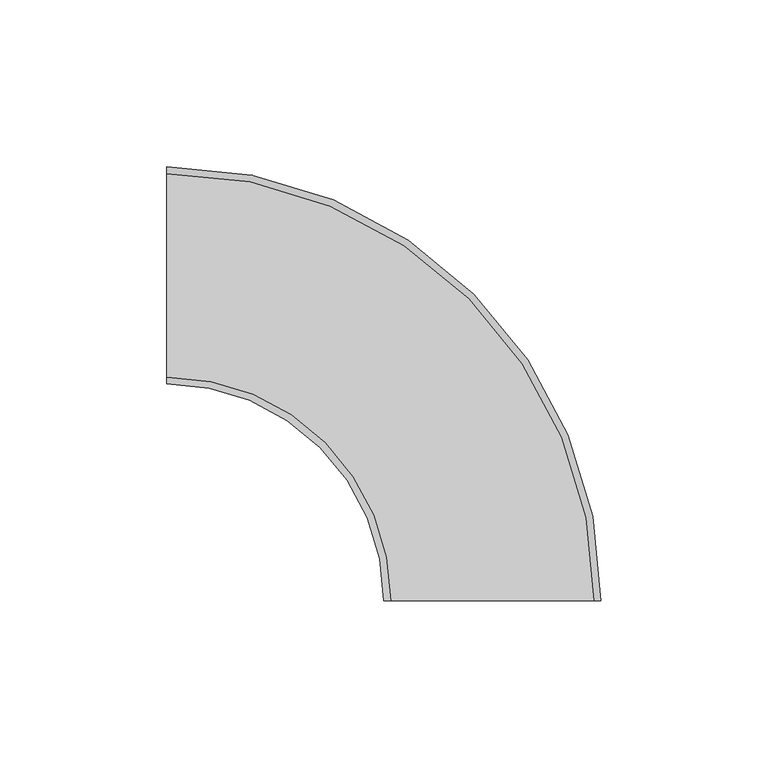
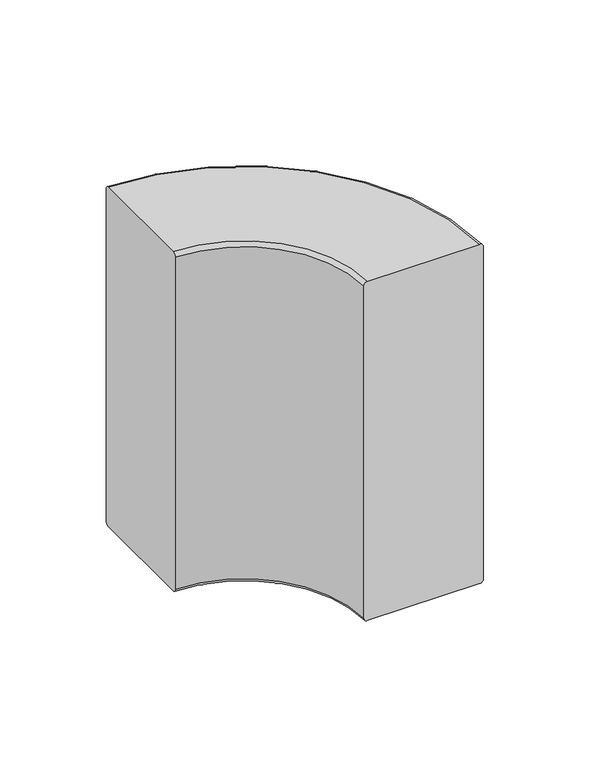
"""IFC4 building model written with IfcOpenShell, lengths in millimetres: duct fitting geometry, Угол внешний переменный от 60° до 120° - для кабель-каналов - белый : Угол внешний переменный от 60° до 120° - для кабель-каналов DLP 65х195/220 - 3 секции."""

from ifc_helpers import new_model, si_unit, point, frame, origin, place, context, project, spatial, polyline, circle_curve, ellipse_curve, trimmed, source, transform, mapped, element, save
from ifc_brep_helpers import plane_surface, cylinder_surface, revolved_surface, advanced_brep


def duct_fitting_70961774(model_context):
    return source(origin(), model_context, "Body", "AdvancedBrep", [
        advanced_brep(
        [(-30.5, 0.0, 97.5), (-32.5, 0.0, 95.5), (-32.5, 0.0, -95.5), (-30.5, 0.0, -97.5), (30.5, 0.0, -97.5), (32.5, 0.0, -95.5), (32.5, 0.0, 95.5), (30.5, 0.0, 97.5), (-97.5, 67.0, 97.5), (-97.5, 128.0, 97.5), (-97.5, 130.0, 95.5), (-97.5, 130.0, -95.5), (-97.5, 128.0, -97.5), (-97.5, 67.0, -97.5), (-97.5, 65.0, -95.5), (-97.5, 65.0, 95.5)],
        [
            (0, 1, circle_curve(frame((-30.5, 0.0, 95.5), z_axis=(0.0, -1.0, 0.0), x_axis=(-1.0, 0.0, 0.0)), 2.0)),
            (1, 2),
            (2, 3, circle_curve(frame((-30.5, 0.0, -95.5), z_axis=(0.0, -1.0, 0.0), x_axis=(-1.0, 0.0, 0.0)), 2.0)),
            (3, 4),
            (4, 5, circle_curve(frame((30.5, 0.0, -95.5), z_axis=(0.0, -1.0, 0.0), x_axis=(-1.0, 0.0, 0.0)), 2.0)),
            (5, 6),
            (6, 7, circle_curve(frame((30.5, 0.0, 95.5), z_axis=(0.0, -1.0, 0.0), x_axis=(-1.0, 0.0, 0.0)), 2.0)),
            (7, 0),
            (8, 9),
            (9, 10, circle_curve(frame((-97.5, 128.0, 95.5), z_axis=(-1.0, 0.0, 0.0), x_axis=(0.0, -1.0, 0.0)), 2.0)),
            (10, 11),
            (11, 12, circle_curve(frame((-97.5, 128.0, -95.5), z_axis=(-1.0, 0.0, 0.0), x_axis=(0.0, -1.0, 0.0)), 2.0)),
            (12, 13),
            (13, 14, circle_curve(frame((-97.5, 67.0, -95.5), z_axis=(-1.0, 0.0, 0.0), x_axis=(0.0, -1.0, 0.0)), 2.0)),
            (14, 15),
            (15, 8, circle_curve(frame((-97.5, 67.0, 95.5), z_axis=(-1.0, 0.0, 0.0), x_axis=(0.0, -1.0, 0.0)), 2.0)),
            (15, 1, circle_curve(frame((-97.5, 0.0, 95.5), z_axis=(0.0, 0.0, -1.0), x_axis=(1.0, 0.0, 0.0)), 65.0)),
            (0, 8, circle_curve(frame((-97.5, 0.0, 97.5), z_axis=(0.0, 0.0, 1.0), x_axis=(1.0, 0.0, 0.0)), 67.0)),
            (14, 2, circle_curve(frame((-97.5, 0.0, -95.5), z_axis=(0.0, 0.0, -1.0), x_axis=(1.0, 0.0, 0.0)), 65.0)),
            (13, 3, circle_curve(frame((-97.5, 0.0, -97.5), z_axis=(0.0, 0.0, -1.0), x_axis=(1.0, 0.0, 0.0)), 67.0)),
            (12, 4, circle_curve(frame((-97.5, 0.0, -97.5), z_axis=(0.0, 0.0, -1.0), x_axis=(1.0, 0.0, 0.0)), 128.0)),
            (11, 5, circle_curve(frame((-97.5, 0.0, -95.5), z_axis=(0.0, 0.0, -1.0), x_axis=(1.0, 0.0, 0.0)), 130.0)),
            (10, 6, circle_curve(frame((-97.5, 0.0, 95.5), z_axis=(0.0, 0.0, -1.0), x_axis=(1.0, 0.0, 0.0)), 130.0)),
            (9, 7, circle_curve(frame((-97.5, 0.0, 97.5), z_axis=(0.0, 0.0, -1.0), x_axis=(1.0, 0.0, 0.0)), 128.0)),
        ],
        [
            plane_surface(frame((0.0, 0.0, 0.0), z_axis=(0.0, -1.0, 0.0), x_axis=(0.0, 0.0, 1.0))),
            plane_surface(frame((-97.5, 97.5, 0.0), z_axis=(-1.0, 0.0, 0.0), x_axis=(0.0, 0.0, 1.0))),
            revolved_surface(trimmed(ellipse_curve(frame((-30.5, 0.0, 95.5), z_axis=(0.0, -1.0, 0.0), x_axis=(-1.0, 0.0, 0.0)), 2.0, 2.0), [point((-30.5, 0.0, 97.5))], [point((-32.5, 0.0, 95.5))], True, "CARTESIAN"), (-97.5, 0.0, 0.0), (0.0, 0.0, 1.0)),
            revolved_surface(polyline([(-32.5, 0.0, 95.5), (-32.5, 0.0, -95.5)]), (-97.5, 0.0, 0.0), (0.0, 0.0, 1.0)),
            revolved_surface(trimmed(ellipse_curve(frame((-30.5, 0.0, -95.5), z_axis=(0.0, -1.0, 0.0), x_axis=(-1.0, 0.0, 0.0)), 2.0, 2.0), [point((-32.5, 0.0, -95.5))], [point((-30.5, 0.0, -97.5))], True, "CARTESIAN"), (-97.5, 0.0, 0.0), (0.0, 0.0, 1.0)),
            plane_surface(frame((-97.5, 0.0, -97.5), z_axis=(0.0, 0.0, -1.0), x_axis=(1.0, 0.0, 0.0))),
            revolved_surface(trimmed(ellipse_curve(frame((30.5, 0.0, -95.5), z_axis=(0.0, -1.0, 0.0), x_axis=(-1.0, 0.0, 0.0)), 2.0, 2.0), [point((30.5, 0.0, -97.5))], [point((32.5, 0.0, -95.5))], True, "CARTESIAN"), (-97.5, 0.0, 0.0), (0.0, 0.0, 1.0)),
            cylinder_surface(frame((-97.5, 0.0, 0.0), z_axis=(0.0, 0.0, 1.0), x_axis=(1.0, 0.0, 0.0)), 130.0),
            revolved_surface(trimmed(ellipse_curve(frame((30.5, 0.0, 95.5), z_axis=(0.0, -1.0, 0.0), x_axis=(-1.0, 0.0, 0.0)), 2.0, 2.0), [point((32.5, 0.0, 95.5))], [point((30.5, 0.0, 97.5))], True, "CARTESIAN"), (-97.5, 0.0, 0.0), (0.0, 0.0, 1.0)),
            plane_surface(frame((-97.5, 0.0, 97.5), z_axis=(0.0, 0.0, 1.0), x_axis=(1.0, 0.0, 0.0))),
        ],
        [
            (0, [[1, 2, 3, 4, 5, 6, 7, 8]]),
            (1, [[9, 10, 11, 12, 13, 14, 15, 16]]),
            (2, [[17, -1, 18, -16]]),
            (3, [[19, -2, -17, -15]]),
            (4, [[20, -3, -19, -14]]),
            (5, [[21, -4, -20, -13]]),
            (6, [[22, -5, -21, -12]]),
            (7, [[23, -6, -22, -11]]),
            (8, [[24, -7, -23, -10]]),
            (9, [[-18, -8, -24, -9]]),
        ],
    ),
    ])


if __name__ == "__main__":
    model = new_model("IFC4")
    model_context = context("Model", 3, world=origin())
    ifc_project = project(units=[si_unit("LENGTHUNIT", "METRE", prefix="MILLI")], contexts=[model_context])
    site = spatial("IfcSite", under=ifc_project)
    building = spatial("IfcBuilding", under=site)
    placement = place(None, origin())
    duct_fitting_shape = duct_fitting_70961774(model_context)
    element("IfcDuctFitting", 1, ObjectType="Угол внешний переменный от 60° до 120° - для кабель-каналов - белый : Угол внешний переменный от 60° до 120° - для кабель-каналов DLP 65х195/220 - 3 секции", at=placement, inside=building, context=model_context, shape_type="MappedRepresentation", body=[
        mapped(duct_fitting_shape, transform((0.0, 0.0, 0.0), x_axis=(1.0, 0.0, 0.0), y_axis=(0.0, 1.0, 0.0), z_axis=(0.0, 0.0, 1.0))),
    ])
    save(model, "model.ifc")
